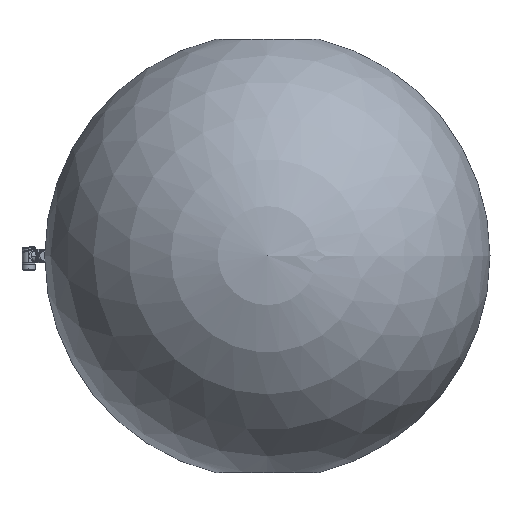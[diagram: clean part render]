
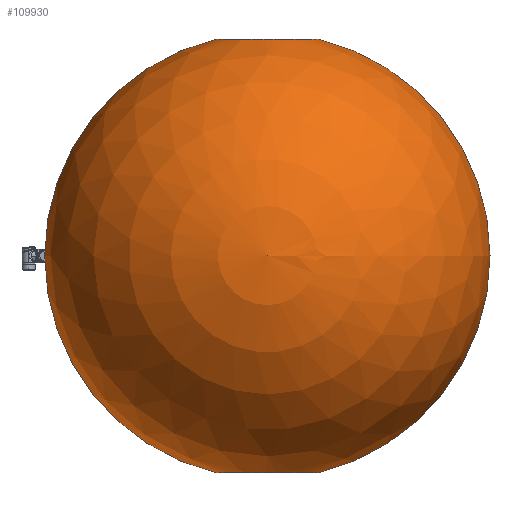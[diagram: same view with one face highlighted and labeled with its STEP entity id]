
A CAD part, top view. The second image highlights one B-rep face of the part: STEP entity #109930.
In plain terms, the highlighted spherical face has radius 1959.5 mm.
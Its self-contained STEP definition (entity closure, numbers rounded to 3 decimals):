
#5710 = DIRECTION ( 'NONE',  ( 0., -1., 0. ) ) ;
#6604 = AXIS2_PLACEMENT_3D ( 'NONE', #100428, #6791, #134242 ) ;
#6791 = DIRECTION ( 'NONE',  ( 0., 0., 1. ) ) ;
#11011 = EDGE_CURVE ( 'NONE', #47068, #44050, #40797, .T. ) ;
#15613 = CIRCLE ( 'NONE', #140594, 450. ) ;
#24902 = CARTESIAN_POINT ( 'NONE',  ( 450., 1907.129, 0. ) ) ;
#31670 = DIRECTION ( 'NONE',  ( 0., 1., 0. ) ) ;
#31995 = DIRECTION ( 'NONE',  ( -1., 0., 0. ) ) ;
#32811 = CIRCLE ( 'NONE', #84214, 450. ) ;
#37977 = EDGE_LOOP ( 'NONE', ( #79778, #62210, #61465, #126441, #93206, #40724 ) ) ;
#40549 = EDGE_CURVE ( 'NONE', #146690, #47068, #60842, .T. ) ;
#40724 = ORIENTED_EDGE ( 'NONE', *, *, #117280, .F. ) ;
#40797 = CIRCLE ( 'NONE', #138838, 1959.5 ) ;
#43440 = CIRCLE ( 'NONE', #6604, 1959.5 ) ;
#44050 = VERTEX_POINT ( 'NONE', #144123 ) ;
#46871 = AXIS2_PLACEMENT_3D ( 'NONE', #68957, #31670, #78452 ) ;
#47068 = VERTEX_POINT ( 'NONE', #65207 ) ;
#48457 = EDGE_CURVE ( 'NONE', #60810, #99776, #43440, .T. ) ;
#48491 = CARTESIAN_POINT ( 'NONE',  ( 0., -1907.129, 450. ) ) ;
#53509 = DIRECTION ( 'NONE',  ( 0., 1., 0. ) ) ;
#57117 = EDGE_CURVE ( 'NONE', #104358, #99776, #15613, .T. ) ;
#60810 = VERTEX_POINT ( 'NONE', #85695 ) ;
#60842 = CIRCLE ( 'NONE', #149170, 450. ) ;
#61465 = ORIENTED_EDGE ( 'NONE', *, *, #138153, .F. ) ;
#61838 = SPHERICAL_SURFACE ( 'NONE', #102638, 1959.5 ) ;
#62210 = ORIENTED_EDGE ( 'NONE', *, *, #40549, .F. ) ;
#62896 = DIRECTION ( 'NONE',  ( 0., -1., 0. ) ) ;
#65207 = CARTESIAN_POINT ( 'NONE',  ( -450., -1907.129, 0. ) ) ;
#68957 = CARTESIAN_POINT ( 'NONE',  ( 0., 1907.129, 0. ) ) ;
#74400 = CARTESIAN_POINT ( 'NONE',  ( 0., -1907.129, 0. ) ) ;
#75512 = DIRECTION ( 'NONE',  ( 0., 0., 1. ) ) ;
#77151 = DIRECTION ( 'NONE',  ( 0., 0., -1. ) ) ;
#78452 = DIRECTION ( 'NONE',  ( 0., 0., -1. ) ) ;
#79778 = ORIENTED_EDGE ( 'NONE', *, *, #11011, .F. ) ;
#84214 = AXIS2_PLACEMENT_3D ( 'NONE', #121656, #5710, #75512 ) ;
#85695 = CARTESIAN_POINT ( 'NONE',  ( 450., -1907.129, 0. ) ) ;
#93206 = ORIENTED_EDGE ( 'NONE', *, *, #57117, .F. ) ;
#95628 = FACE_OUTER_BOUND ( 'NONE', #37977, .T. ) ;
#99776 = VERTEX_POINT ( 'NONE', #24902 ) ;
#100428 = CARTESIAN_POINT ( 'NONE',  ( 0., 0., 0. ) ) ;
#102452 = CARTESIAN_POINT ( 'NONE',  ( 0., 0., 0. ) ) ;
#102638 = AXIS2_PLACEMENT_3D ( 'NONE', #102452, #77151, #135521 ) ;
#104358 = VERTEX_POINT ( 'NONE', #123913 ) ;
#109930 = ADVANCED_FACE ( 'NONE', ( #95628 ), #61838, .T. ) ;
#115455 = CIRCLE ( 'NONE', #46871, 450. ) ;
#117280 = EDGE_CURVE ( 'NONE', #44050, #104358, #115455, .T. ) ;
#121656 = CARTESIAN_POINT ( 'NONE',  ( 0., -1907.129, 0. ) ) ;
#123913 = CARTESIAN_POINT ( 'NONE',  ( 0., 1907.129, 450. ) ) ;
#126441 = ORIENTED_EDGE ( 'NONE', *, *, #48457, .T. ) ;
#128603 = DIRECTION ( 'NONE',  ( 0., 0., -1. ) ) ;
#134080 = CARTESIAN_POINT ( 'NONE',  ( 0., 1907.129, 0. ) ) ;
#134242 = DIRECTION ( 'NONE',  ( 1., 0., 0. ) ) ;
#135521 = DIRECTION ( 'NONE',  ( 1., 0., 0. ) ) ;
#137146 = CARTESIAN_POINT ( 'NONE',  ( 0., 0., 0. ) ) ;
#138153 = EDGE_CURVE ( 'NONE', #60810, #146690, #32811, .T. ) ;
#138838 = AXIS2_PLACEMENT_3D ( 'NONE', #137146, #128603, #31995 ) ;
#140594 = AXIS2_PLACEMENT_3D ( 'NONE', #134080, #53509, #146281 ) ;
#143502 = DIRECTION ( 'NONE',  ( 0., 0., 1. ) ) ;
#144123 = CARTESIAN_POINT ( 'NONE',  ( -450., 1907.129, 0. ) ) ;
#146281 = DIRECTION ( 'NONE',  ( 0., 0., -1. ) ) ;
#146690 = VERTEX_POINT ( 'NONE', #48491 ) ;
#149170 = AXIS2_PLACEMENT_3D ( 'NONE', #74400, #62896, #143502 ) ;
